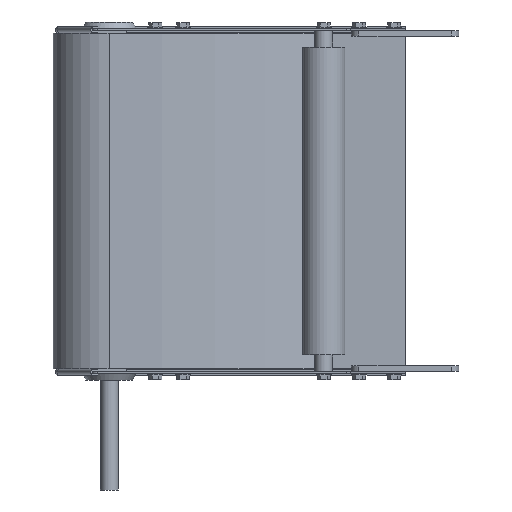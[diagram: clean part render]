
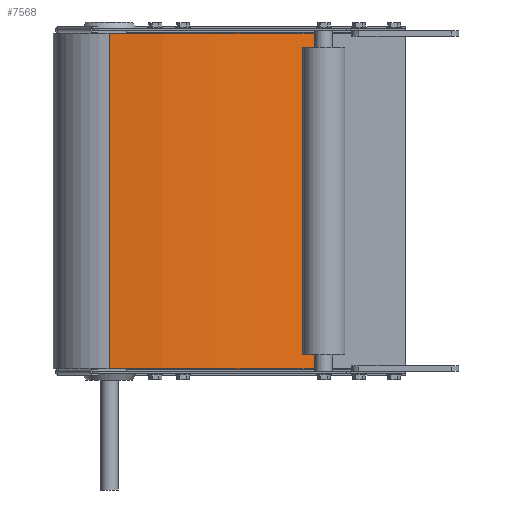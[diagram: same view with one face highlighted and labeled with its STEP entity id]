
A CAD part, front view. The second image highlights one B-rep face of the part: STEP entity #7568.
In plain terms, the highlighted cylindrical face has radius 508.8 mm (diameter 1017.6 mm), a partial arc.
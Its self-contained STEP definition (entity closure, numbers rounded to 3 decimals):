
#296 = CARTESIAN_POINT ( 'NONE',  ( 296.602, -71.429, -190.5 ) ) ;
#899 = DIRECTION ( 'NONE',  ( -1., 0., 0. ) ) ;
#1079 = DIRECTION ( 'NONE',  ( 1., 0., 0. ) ) ;
#1197 = CARTESIAN_POINT ( 'NONE',  ( 296.602, -71.429, 190.5 ) ) ;
#1996 = DIRECTION ( 'NONE',  ( 0., 0., 1. ) ) ;
#2508 = ORIENTED_EDGE ( 'NONE', *, *, #4283, .T. ) ;
#2522 = CARTESIAN_POINT ( 'NONE',  ( 64.602, 381.399, 190.5 ) ) ;
#2524 = DIRECTION ( 'NONE',  ( 0., 0., 1. ) ) ;
#2671 = CARTESIAN_POINT ( 'NONE',  ( 64.602, 381.399, -190.5 ) ) ;
#2932 = DIRECTION ( 'NONE',  ( 0., 0., 1. ) ) ;
#3974 = LINE ( 'NONE', #296, #6850 ) ;
#4001 = ORIENTED_EDGE ( 'NONE', *, *, #6327, .T. ) ;
#4070 = AXIS2_PLACEMENT_3D ( 'NONE', #2671, #7893, #1079 ) ;
#4089 = VERTEX_POINT ( 'NONE', #9572 ) ;
#4283 = EDGE_CURVE ( 'NONE', #9145, #4089, #6958, .T. ) ;
#4339 = VERTEX_POINT ( 'NONE', #7088 ) ;
#4390 = CARTESIAN_POINT ( 'NONE',  ( 63.571, -127.4, -190.5 ) ) ;
#4884 = CARTESIAN_POINT ( 'NONE',  ( 64.602, 381.399, -190.5 ) ) ;
#4975 = EDGE_CURVE ( 'NONE', #4339, #7856, #6818, .T. ) ;
#5060 = ORIENTED_EDGE ( 'NONE', *, *, #6401, .F. ) ;
#5579 = CYLINDRICAL_SURFACE ( 'NONE', #4070, 508.8 ) ;
#5630 = CARTESIAN_POINT ( 'NONE',  ( 63.571, -127.4, -190.5 ) ) ;
#5659 = DIRECTION ( 'NONE',  ( 0., 0., 1. ) ) ;
#6032 = AXIS2_PLACEMENT_3D ( 'NONE', #2522, #2932, #899 ) ;
#6327 = EDGE_CURVE ( 'NONE', #4089, #7856, #3974, .T. ) ;
#6401 = EDGE_CURVE ( 'NONE', #9145, #4339, #8560, .T. ) ;
#6818 = CIRCLE ( 'NONE', #6032, 508.8 ) ;
#6850 = VECTOR ( 'NONE', #2524, 1000. ) ;
#6958 = CIRCLE ( 'NONE', #8352, 508.8 ) ;
#7088 = CARTESIAN_POINT ( 'NONE',  ( 63.571, -127.4, 190.5 ) ) ;
#7568 = ADVANCED_FACE ( 'NONE', ( #7741 ), #5579, .T. ) ;
#7741 = FACE_OUTER_BOUND ( 'NONE', #7961, .T. ) ;
#7820 = DIRECTION ( 'NONE',  ( -1., 0., 0. ) ) ;
#7856 = VERTEX_POINT ( 'NONE', #1197 ) ;
#7893 = DIRECTION ( 'NONE',  ( 0., 0., 1. ) ) ;
#7961 = EDGE_LOOP ( 'NONE', ( #8545, #5060, #2508, #4001 ) ) ;
#8102 = VECTOR ( 'NONE', #1996, 1000. ) ;
#8352 = AXIS2_PLACEMENT_3D ( 'NONE', #4884, #5659, #7820 ) ;
#8545 = ORIENTED_EDGE ( 'NONE', *, *, #4975, .F. ) ;
#8560 = LINE ( 'NONE', #5630, #8102 ) ;
#9145 = VERTEX_POINT ( 'NONE', #4390 ) ;
#9572 = CARTESIAN_POINT ( 'NONE',  ( 296.602, -71.429, -190.5 ) ) ;
